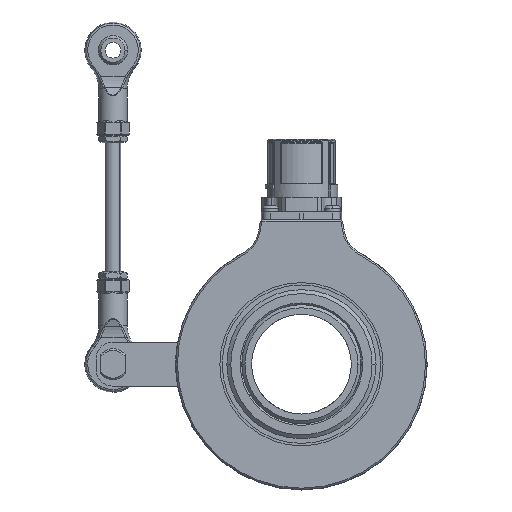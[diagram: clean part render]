
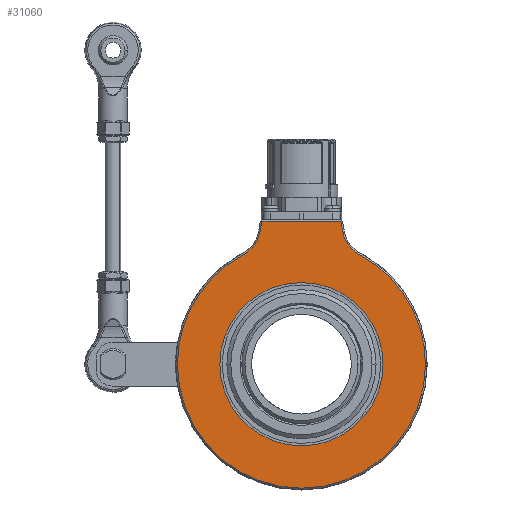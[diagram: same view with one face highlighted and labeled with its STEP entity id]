
A CAD part, left-side view. The second image highlights one B-rep face of the part: STEP entity #31060.
In plain terms, the highlighted planar face has unit normal (-1, 0, 0).
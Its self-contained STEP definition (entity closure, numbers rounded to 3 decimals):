
#265 = CARTESIAN_POINT ( 'NONE',  ( -26., 18.551, 34.873 ) ) ;
#352 = DIRECTION ( 'NONE',  ( 1., 0., 0. ) ) ;
#1216 = VECTOR ( 'NONE', #11255, 1000. ) ;
#1397 = CIRCLE ( 'NONE', #10447, 39.5 ) ;
#1521 = CARTESIAN_POINT ( 'NONE',  ( -26., -26., 0. ) ) ;
#1694 = DIRECTION ( 'NONE',  ( 0., -1., 0. ) ) ;
#2320 = DIRECTION ( 'NONE',  ( 0., 0.174, 0.985 ) ) ;
#2825 = AXIS2_PLACEMENT_3D ( 'NONE', #23080, #34247, #34039 ) ;
#3329 = CARTESIAN_POINT ( 'NONE',  ( -26., 0., 0. ) ) ;
#3345 = EDGE_CURVE ( 'NONE', #7435, #4474, #10176, .T. ) ;
#3912 = ORIENTED_EDGE ( 'NONE', *, *, #12219, .T. ) ;
#3926 = DIRECTION ( 'NONE',  ( -1., 0., 0. ) ) ;
#4245 = CARTESIAN_POINT ( 'NONE',  ( -26., -13.141, 42.32 ) ) ;
#4474 = VERTEX_POINT ( 'NONE', #4245 ) ;
#4697 = DIRECTION ( 'NONE',  ( -1., 0., 0. ) ) ;
#4744 = CARTESIAN_POINT ( 'NONE',  ( -26., -18.776, 10.364 ) ) ;
#4898 = DIRECTION ( 'NONE',  ( 0., -1., 0. ) ) ;
#5218 = CIRCLE ( 'NONE', #10417, 39.5 ) ;
#5704 = VERTEX_POINT ( 'NONE', #21026 ) ;
#6428 = CARTESIAN_POINT ( 'NONE',  ( -26., -39.5, 0. ) ) ;
#6837 = LINE ( 'NONE', #13309, #12317 ) ;
#7324 = DIRECTION ( 'NONE',  ( -1., 0., 0. ) ) ;
#7435 = VERTEX_POINT ( 'NONE', #31515 ) ;
#7468 = VERTEX_POINT ( 'NONE', #34527 ) ;
#7826 = DIRECTION ( 'NONE',  ( 1., 0., 0. ) ) ;
#8283 = VERTEX_POINT ( 'NONE', #1521 ) ;
#9044 = CARTESIAN_POINT ( 'NONE',  ( -26., 12.58, 45.5 ) ) ;
#10176 = CIRCLE ( 'NONE', #37826, 10.5 ) ;
#10392 = VERTEX_POINT ( 'NONE', #9044 ) ;
#10417 = AXIS2_PLACEMENT_3D ( 'NONE', #3329, #3926, #18859 ) ;
#10447 = AXIS2_PLACEMENT_3D ( 'NONE', #13623, #22883, #4898 ) ;
#11066 = CARTESIAN_POINT ( 'NONE',  ( -26., 21.188, -3.317 ) ) ;
#11255 = DIRECTION ( 'NONE',  ( 0., 0.174, -0.985 ) ) ;
#11667 = DIRECTION ( 'NONE',  ( 0., -1., 0. ) ) ;
#12219 = EDGE_CURVE ( 'NONE', #29911, #8283, #35373, .T. ) ;
#12317 = VECTOR ( 'NONE', #12915, 1000. ) ;
#12850 = CARTESIAN_POINT ( 'NONE',  ( -26., -23.482, 44.143 ) ) ;
#12915 = DIRECTION ( 'NONE',  ( 0., 1., 0. ) ) ;
#13068 = VERTEX_POINT ( 'NONE', #265 ) ;
#13309 = CARTESIAN_POINT ( 'NONE',  ( -26., 40., 45.5 ) ) ;
#13401 = ORIENTED_EDGE ( 'NONE', *, *, #29649, .T. ) ;
#13574 = ORIENTED_EDGE ( 'NONE', *, *, #22420, .T. ) ;
#13607 = ORIENTED_EDGE ( 'NONE', *, *, #39549, .T. ) ;
#13623 = CARTESIAN_POINT ( 'NONE',  ( -26., 0., 0. ) ) ;
#14584 = ORIENTED_EDGE ( 'NONE', *, *, #29856, .T. ) ;
#14779 = VERTEX_POINT ( 'NONE', #6428 ) ;
#15702 = CIRCLE ( 'NONE', #2825, 26. ) ;
#18328 = CARTESIAN_POINT ( 'NONE',  ( -26., 13.141, 42.32 ) ) ;
#18336 = CIRCLE ( 'NONE', #36352, 10.5 ) ;
#18859 = DIRECTION ( 'NONE',  ( 0., -1., 0. ) ) ;
#19507 = EDGE_CURVE ( 'NONE', #8283, #29911, #15702, .T. ) ;
#19739 = EDGE_LOOP ( 'NONE', ( #13401, #13574, #31550, #21625, #23947, #13607, #14584, #27091 ) ) ;
#20046 = FACE_BOUND ( 'NONE', #29882, .T. ) ;
#20384 = VERTEX_POINT ( 'NONE', #18328 ) ;
#20650 = EDGE_CURVE ( 'NONE', #10392, #20384, #38629, .T. ) ;
#20964 = ORIENTED_EDGE ( 'NONE', *, *, #19507, .T. ) ;
#21026 = CARTESIAN_POINT ( 'NONE',  ( -26., 39.5, 0. ) ) ;
#21625 = ORIENTED_EDGE ( 'NONE', *, *, #29164, .T. ) ;
#22420 = EDGE_CURVE ( 'NONE', #7468, #10392, #6837, .T. ) ;
#22464 = DIRECTION ( 'NONE',  ( 0., -1., 0. ) ) ;
#22883 = DIRECTION ( 'NONE',  ( -1., 0., 0. ) ) ;
#23061 = CARTESIAN_POINT ( 'NONE',  ( -26., 40., 0. ) ) ;
#23080 = CARTESIAN_POINT ( 'NONE',  ( -26., 0., 0. ) ) ;
#23509 = CIRCLE ( 'NONE', #38935, 39.5 ) ;
#23947 = ORIENTED_EDGE ( 'NONE', *, *, #39371, .T. ) ;
#27091 = ORIENTED_EDGE ( 'NONE', *, *, #3345, .T. ) ;
#27246 = DIRECTION ( 'NONE',  ( 0., 1., 0. ) ) ;
#27365 = VECTOR ( 'NONE', #2320, 1000. ) ;
#28356 = DIRECTION ( 'NONE',  ( 0., -1., 0. ) ) ;
#29164 = EDGE_CURVE ( 'NONE', #20384, #13068, #18336, .T. ) ;
#29649 = EDGE_CURVE ( 'NONE', #4474, #7468, #29747, .T. ) ;
#29747 = LINE ( 'NONE', #4744, #27365 ) ;
#29856 = EDGE_CURVE ( 'NONE', #14779, #7435, #23509, .T. ) ;
#29882 = EDGE_LOOP ( 'NONE', ( #3912, #20964 ) ) ;
#29911 = VERTEX_POINT ( 'NONE', #34552 ) ;
#31060 = ADVANCED_FACE ( 'NONE', ( #38556, #20046 ), #35554, .T. ) ;
#31159 = CARTESIAN_POINT ( 'NONE',  ( -26., 0., 0. ) ) ;
#31239 = AXIS2_PLACEMENT_3D ( 'NONE', #23061, #4697, #1694 ) ;
#31515 = CARTESIAN_POINT ( 'NONE',  ( -26., -18.551, 34.873 ) ) ;
#31550 = ORIENTED_EDGE ( 'NONE', *, *, #20650, .T. ) ;
#33301 = CARTESIAN_POINT ( 'NONE',  ( -26., 0., 0. ) ) ;
#34039 = DIRECTION ( 'NONE',  ( 0., 1., 0. ) ) ;
#34247 = DIRECTION ( 'NONE',  ( 1., 0., 0. ) ) ;
#34527 = CARTESIAN_POINT ( 'NONE',  ( -26., -12.58, 45.5 ) ) ;
#34552 = CARTESIAN_POINT ( 'NONE',  ( -26., 26., 0. ) ) ;
#35373 = CIRCLE ( 'NONE', #36007, 26. ) ;
#35554 = PLANE ( 'NONE',  #31239 ) ;
#36007 = AXIS2_PLACEMENT_3D ( 'NONE', #33301, #39726, #27246 ) ;
#36244 = CARTESIAN_POINT ( 'NONE',  ( -26., 23.482, 44.143 ) ) ;
#36352 = AXIS2_PLACEMENT_3D ( 'NONE', #36244, #7826, #11667 ) ;
#37826 = AXIS2_PLACEMENT_3D ( 'NONE', #12850, #352, #28356 ) ;
#38556 = FACE_OUTER_BOUND ( 'NONE', #19739, .T. ) ;
#38629 = LINE ( 'NONE', #11066, #1216 ) ;
#38935 = AXIS2_PLACEMENT_3D ( 'NONE', #31159, #7324, #22464 ) ;
#39371 = EDGE_CURVE ( 'NONE', #13068, #5704, #5218, .T. ) ;
#39549 = EDGE_CURVE ( 'NONE', #5704, #14779, #1397, .T. ) ;
#39726 = DIRECTION ( 'NONE',  ( 1., 0., 0. ) ) ;
